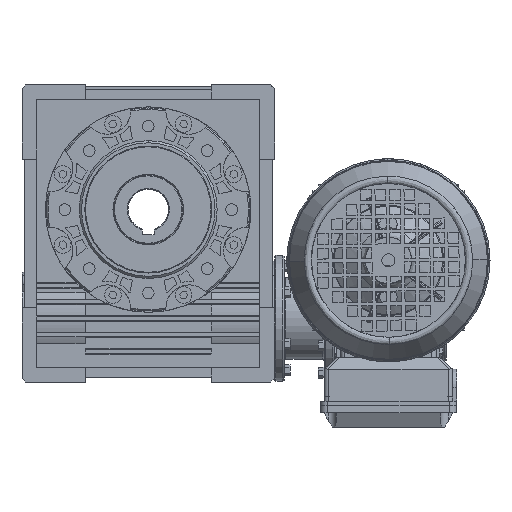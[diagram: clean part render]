
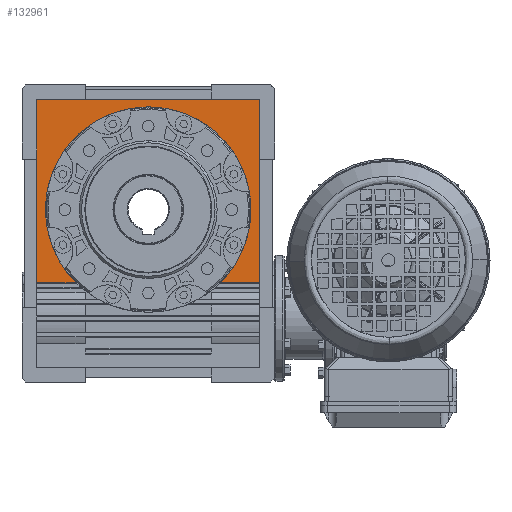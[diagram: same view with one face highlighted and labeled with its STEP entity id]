
A CAD part, front view. The second image highlights one B-rep face of the part: STEP entity #132961.
In plain terms, the highlighted planar face has unit normal (0, -1, 0).
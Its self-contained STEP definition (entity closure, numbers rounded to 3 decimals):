
#6860 = VERTEX_POINT ( 'NONE', #26268 ) ;
#6863 = VERTEX_POINT ( 'NONE', #26271 ) ;
#6866 = VERTEX_POINT ( 'NONE', #26275 ) ;
#6871 = VERTEX_POINT ( 'NONE', #26279 ) ;
#7017 = VERTEX_POINT ( 'NONE', #26442 ) ;
#15528 = FACE_OUTER_BOUND ( 'NONE', #100357, .T. ) ;
#16739 = ORIENTED_EDGE ( 'NONE', *, *, #54587, .F. ) ;
#16742 = ORIENTED_EDGE ( 'NONE', *, *, #30803, .F. ) ;
#16745 = ORIENTED_EDGE ( 'NONE', *, *, #30790, .F. ) ;
#16748 = ORIENTED_EDGE ( 'NONE', *, *, #54773, .F. ) ;
#16751 = ORIENTED_EDGE ( 'NONE', *, *, #54788, .F. ) ;
#16754 = ORIENTED_EDGE ( 'NONE', *, *, #103346, .F. ) ;
#16758 = ORIENTED_EDGE ( 'NONE', *, *, #54787, .F. ) ;
#18805 = AXIS2_PLACEMENT_3D ( 'NONE', #22082, #22091, #22092 ) ;
#20393 = LINE ( 'NONE', #27009, #20396 ) ;
#20396 = VECTOR ( 'NONE', #27010, 1000. ) ;
#20405 = LINE ( 'NONE', #27021, #20408 ) ;
#20408 = VECTOR ( 'NONE', #27023, 1000. ) ;
#22082 = CARTESIAN_POINT ( 'NONE',  ( -90.5, -36., 151. ) ) ;
#22089 = PLANE ( 'NONE',  #18805 ) ;
#22091 = DIRECTION ( 'NONE',  ( 0., 1., 0. ) ) ;
#22092 = DIRECTION ( 'NONE',  ( 0., 0., 1. ) ) ;
#26268 = CARTESIAN_POINT ( 'NONE',  ( -90.5, -36., 151. ) ) ;
#26271 = CARTESIAN_POINT ( 'NONE',  ( -244.5, -36., 24.542 ) ) ;
#26275 = CARTESIAN_POINT ( 'NONE',  ( -90.5, -36., 24.542 ) ) ;
#26279 = CARTESIAN_POINT ( 'NONE',  ( -244.5, -36., 151. ) ) ;
#26442 = CARTESIAN_POINT ( 'NONE',  ( -217.165, -36., 24.542 ) ) ;
#27009 = CARTESIAN_POINT ( 'NONE',  ( -244.5, -36., 151. ) ) ;
#27010 = DIRECTION ( 'NONE',  ( 0., 0., 1. ) ) ;
#27021 = CARTESIAN_POINT ( 'NONE',  ( -90.5, -36., 151. ) ) ;
#27023 = DIRECTION ( 'NONE',  ( 1., 0., 0. ) ) ;
#30790 = EDGE_CURVE ( 'NONE', #6863, #6871, #20393, .T. ) ;
#30803 = EDGE_CURVE ( 'NONE', #6871, #6860, #20405, .T. ) ;
#35515 = LINE ( 'NONE', #40267, #35532 ) ;
#35532 = VECTOR ( 'NONE', #40280, 1000. ) ;
#36237 = LINE ( 'NONE', #40820, #36245 ) ;
#36245 = VECTOR ( 'NONE', #40826, 1000. ) ;
#36274 = LINE ( 'NONE', #40851, #36289 ) ;
#36287 = CIRCLE ( 'NONE', #36897, 70.8 ) ;
#36289 = VECTOR ( 'NONE', #40858, 1000. ) ;
#36897 = AXIS2_PLACEMENT_3D ( 'NONE', #40860, #40861, #40862 ) ;
#40267 = CARTESIAN_POINT ( 'NONE',  ( -90.5, -36., 151. ) ) ;
#40280 = DIRECTION ( 'NONE',  ( 0., 0., -1. ) ) ;
#40820 = CARTESIAN_POINT ( 'NONE',  ( -90.5, -36., 24.542 ) ) ;
#40826 = DIRECTION ( 'NONE',  ( -1., 0., 0. ) ) ;
#40851 = CARTESIAN_POINT ( 'NONE',  ( -90.5, -36., 24.542 ) ) ;
#40858 = DIRECTION ( 'NONE',  ( -1., 0., 0. ) ) ;
#40860 = CARTESIAN_POINT ( 'NONE',  ( -167.5, -36., 75. ) ) ;
#40861 = DIRECTION ( 'NONE',  ( 0., -1., 0. ) ) ;
#40862 = DIRECTION ( 'NONE',  ( 0., 0., 1. ) ) ;
#54587 = EDGE_CURVE ( 'NONE', #6860, #6866, #35515, .T. ) ;
#54773 = EDGE_CURVE ( 'NONE', #7017, #6863, #36237, .T. ) ;
#54787 = EDGE_CURVE ( 'NONE', #6866, #99498, #36274, .T. ) ;
#54788 = EDGE_CURVE ( 'NONE', #99500, #7017, #36287, .T. ) ;
#99245 = CARTESIAN_POINT ( 'NONE',  ( -117.835, -36., 24.542 ) ) ;
#99247 = CARTESIAN_POINT ( 'NONE',  ( -167.5, -36., 145.8 ) ) ;
#99498 = VERTEX_POINT ( 'NONE', #99245 ) ;
#99500 = VERTEX_POINT ( 'NONE', #99247 ) ;
#100357 = EDGE_LOOP ( 'NONE', ( #16739, #16742, #16745, #16748, #16751, #16754, #16758 ) ) ;
#103346 = EDGE_CURVE ( 'NONE', #99498, #99500, #112137, .T. ) ;
#112137 = CIRCLE ( 'NONE', #115609, 70.8 ) ;
#115609 = AXIS2_PLACEMENT_3D ( 'NONE', #118501, #118502, #118503 ) ;
#118501 = CARTESIAN_POINT ( 'NONE',  ( -167.5, -36., 75. ) ) ;
#118502 = DIRECTION ( 'NONE',  ( 0., -1., 0. ) ) ;
#118503 = DIRECTION ( 'NONE',  ( 0., 0., 1. ) ) ;
#132961 = ADVANCED_FACE ( 'NONE', ( #15528 ), #22089, .F. ) ;
